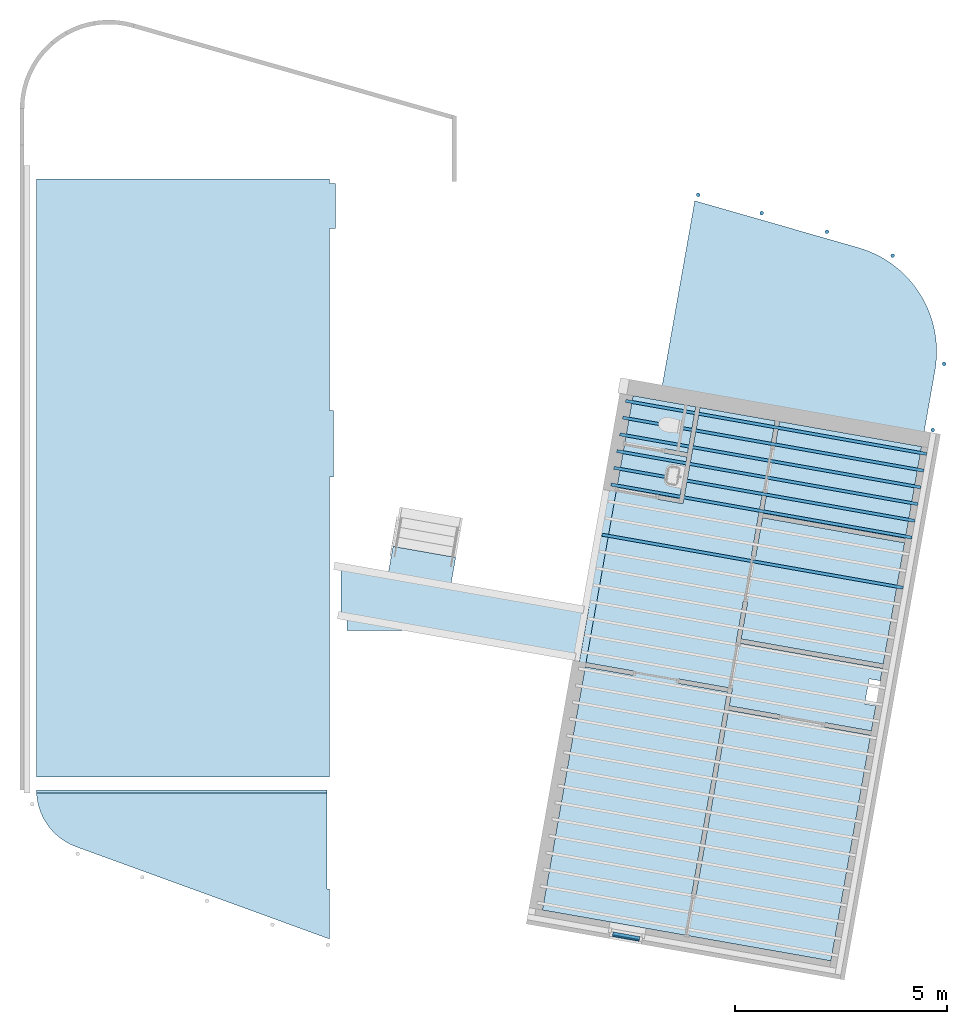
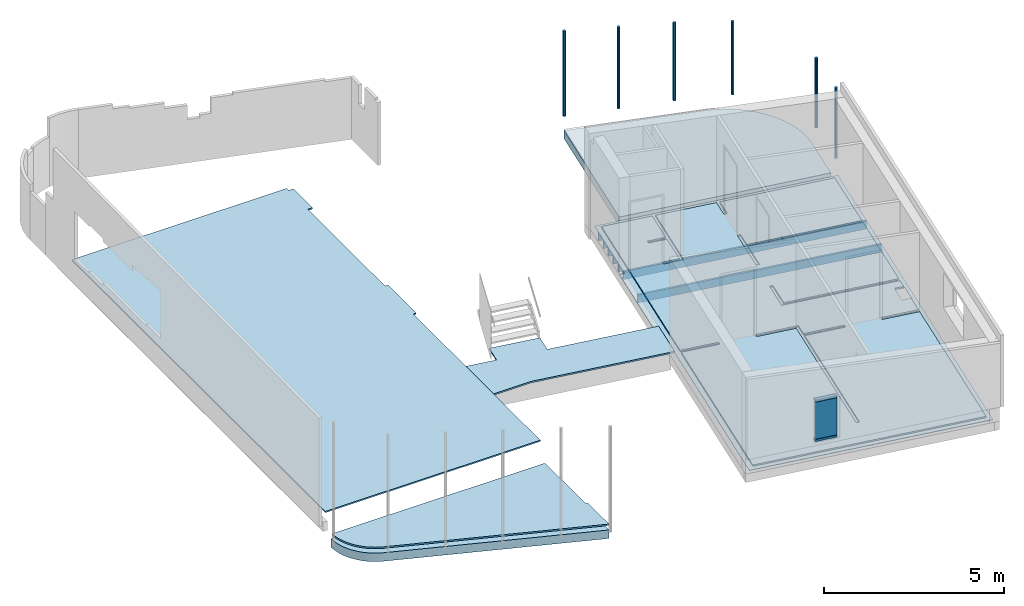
# One storey, part 2 of 7: 8 members, 7 beams, 7 slabs, 1 plate, 3 openings, 5 elements without a shape of their own.
"""IFC2X3 building model written with IfcOpenShell, lengths in millimetres."""

from ifc_helpers import new_model, entity, si_unit, converted_unit, derived_unit, direction, frame, frame_2d, origin, origin_2d_with_axis, place, context, subcontext, project, spatial, polyline, circle_curve, parameter, trimmed, segment, composite_curve, rectangle, circle, outline, extrude, source, transform, mapped, material, layer, layer_set, layer_usage, type_object, type_shapes, element, aggregate, save


model = new_model("IFC2X3")

# Units and contexts
model_context = context("Model", 3, precision=0.01, world=origin(), true_north=direction((6.12303176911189e-17, 1.0)))
body_context = subcontext(model_context, "Body", "Model", "MODEL_VIEW")
ifc_project = project(units=[si_unit("LENGTHUNIT", "METRE", prefix="MILLI"), si_unit("AREAUNIT", "SQUARE_METRE"), si_unit("VOLUMEUNIT", "CUBIC_METRE"), converted_unit("PLANEANGLEUNIT", "DEGREE", entity("IfcRatioMeasure", 0.0174532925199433), si_unit("PLANEANGLEUNIT", "RADIAN"), dimensions=[0, 0, 0, 0, 0, 0, 0]), si_unit("MASSUNIT", "GRAM", prefix="KILO"), derived_unit("MASSDENSITYUNIT", [(si_unit("MASSUNIT", "GRAM", prefix="KILO"), 1), (si_unit("LENGTHUNIT", "METRE"), -3)]), si_unit("TIMEUNIT", "SECOND"), si_unit("FREQUENCYUNIT", "HERTZ"), si_unit("THERMODYNAMICTEMPERATUREUNIT", "DEGREE_CELSIUS"), derived_unit("THERMALTRANSMITTANCEUNIT", [(si_unit("MASSUNIT", "GRAM", prefix="KILO"), 1), (si_unit("THERMODYNAMICTEMPERATUREUNIT", "KELVIN"), -1), (si_unit("TIMEUNIT", "SECOND"), -3)]), derived_unit("VOLUMETRICFLOWRATEUNIT", [(si_unit("LENGTHUNIT", "METRE"), 3), (si_unit("TIMEUNIT", "SECOND"), -1)]), si_unit("ELECTRICCURRENTUNIT", "AMPERE"), si_unit("ELECTRICVOLTAGEUNIT", "VOLT"), si_unit("POWERUNIT", "WATT"), si_unit("FORCEUNIT", "NEWTON", prefix="KILO"), si_unit("ILLUMINANCEUNIT", "LUX"), si_unit("LUMINOUSFLUXUNIT", "LUMEN"), si_unit("LUMINOUSINTENSITYUNIT", "CANDELA"), derived_unit("USERDEFINED", [(si_unit("MASSUNIT", "GRAM", prefix="KILO"), -1), (si_unit("LENGTHUNIT", "METRE"), -2), (si_unit("TIMEUNIT", "SECOND"), 3), (si_unit("LUMINOUSFLUXUNIT", "LUMEN"), 1)]), derived_unit("LINEARVELOCITYUNIT", [(si_unit("LENGTHUNIT", "METRE"), 1), (si_unit("TIMEUNIT", "SECOND"), -1)]), si_unit("PRESSUREUNIT", "PASCAL"), derived_unit("USERDEFINED", [(si_unit("LENGTHUNIT", "METRE"), -2), (si_unit("MASSUNIT", "GRAM", prefix="KILO"), 1), (si_unit("TIMEUNIT", "SECOND"), -2)])], contexts=[model_context])

# Site, building, storey
site_placement = place(None, origin())
site = spatial("IfcSite", under=ifc_project, at=site_placement, Name="<Kadaster Gemeente>;<Kadaster nummer>;<Kadaster sectie>", CompositionType="ELEMENT")
building_placement = place(site_placement, origin())
building = spatial("IfcBuilding", under=site, at=building_placement, Name="JRCZ Middelburg", CompositionType="ELEMENT")
storey_placement = place(building_placement, frame((0.0, 0.0, 3000.0)))
storey = spatial("IfcBuildingStorey", under=building, at=storey_placement, Name="01 eerste verdieping", CompositionType="ELEMENT", Elevation=3000.0)

# Curtain wall, members
curtain_wall_type_1 = type_object("IfcCurtainWallType", Name="Curtain Wall:NLRS_31_CW_Ontwerpkozijn 067x114 2", PredefinedType="NOTDEFINED")
curtain_wall_1_placement = place(storey_placement, frame((0.0, 0.0, -3000.0)))
curtain_wall_1 = element("IfcCurtainWall", 1, at=curtain_wall_1_placement, inside=storey, type_object=curtain_wall_type_1, Name="Curtain Wall:NLRS_31_CW_Ontwerpkozijn 067x114 2", ObjectType="Curtain Wall:NLRS_31_CW_Ontwerpkozijn 067x114 2")
ifc_material_1 = material(Name="RBM_a_kozijn")
member_type_1 = type_object("IfcMemberType", Name="31_CWM_067x114", PredefinedType="MEMBER")
shared_shape_1 = source(origin(), body_context, "Body", "SweptSolid", [
    extrude(rectangle(XDim=113.999999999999, YDim=67.0, at=origin_2d_with_axis()), frame((-33.5, 57.0, -641.0), z_axis=(0.0, 0.0, 1.0), x_axis=(0.0, -1.0, 0.0)), (0.0, 0.0, 1.0), 640.999999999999),
])
type_shapes(member_type_1, [shared_shape_1])
member_1_placement = place(storey_placement, frame((24361.6617875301, 6394.65119391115, 2000.0), z_axis=(0.984807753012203, -0.173648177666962, 0.0), x_axis=(0.0, 0.0, 1.0)))
member_1 = element("IfcMember", 2, at=member_1_placement, type_object=member_type_1, material=ifc_material_1, Name="Rectangular Mullion:31_CWM_067x114", ObjectType="Rectangular Mullion:31_CWM_067x114", context=body_context, shape_type="MappedRepresentation", body=[
    mapped(shared_shape_1, transform((0.0, 0.0, 0.0), scale=1.0)),
])
member_type_2 = type_object("IfcMemberType", Name="31_CWM_067x114", PredefinedType="MEMBER")
shared_shape_2 = source(origin(), body_context, "Body", "SweptSolid", [
    extrude(rectangle(XDim=113.999999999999, YDim=67.0, at=origin_2d_with_axis()), frame((-33.5, 57.0, -641.0), z_axis=(0.0, 0.0, 1.0), x_axis=(0.0, -1.0, 0.0)), (0.0, 0.0, 1.0), 640.999999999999),
])
type_shapes(member_type_2, [shared_shape_2])
member_2_placement = place(storey_placement, frame((23730.4000178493, 6505.95967579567, 600.0), z_axis=(-0.984807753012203, 0.173648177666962, 0.0), x_axis=(0.0, 0.0, -1.0)))
member_2 = element("IfcMember", 3, at=member_2_placement, type_object=member_type_2, material=ifc_material_1, Name="Rectangular Mullion:31_CWM_067x114", ObjectType="Rectangular Mullion:31_CWM_067x114", context=body_context, shape_type="MappedRepresentation", body=[
    mapped(shared_shape_2, transform((0.0, 0.0, 0.0), scale=1.0)),
])

curtain_wall_type_2 = type_object("IfcCurtainWallType", PredefinedType="NOTDEFINED")
curtain_wall_2_placement = place(storey_placement, frame((0.0, 0.0, -3000.0)))
curtain_wall_2 = element("IfcCurtainWall", 4, at=curtain_wall_2_placement, inside=storey, type_object=curtain_wall_type_2)
ifc_material_2 = material(Name="Staal")
member_type_3 = type_object("IfcMemberType", Name="kolom rond 90", PredefinedType="MEMBER")
shared_shape_3 = source(origin(), body_context, "Body", "SweptSolid", [
    extrude(circle(Radius=45.0, at=frame_2d((-6.74610794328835e-25, 3.8981061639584e-12), x_axis=(1.0, 0.0))), frame((0.0, 0.0, -2363.75657837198), z_axis=(0.0, 0.0, 1.0), x_axis=(-1.0, 0.0, 0.0)), (0.0, 0.0, 1.0), 2363.75657837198),
])
type_shapes(member_type_3, [shared_shape_3])
member_3_placement = place(storey_placement, frame((31526.52699392, 19884.8781417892, 350.0), z_axis=(0.0, 0.0, -1.0), x_axis=(0.105661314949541, 0.994402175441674, 0.0)))
member_3 = element("IfcMember", 5, at=member_3_placement, type_object=member_type_3, material=ifc_material_2, Name="Rectangular Mullion:kolom rond 90", ObjectType="Rectangular Mullion:kolom rond 90", context=body_context, shape_type="MappedRepresentation", body=[
    mapped(shared_shape_3, transform((0.0, 0.0, 0.0), scale=1.0)),
])
member_type_4 = type_object("IfcMemberType", Name="kolom rond 90", PredefinedType="MEMBER")
shared_shape_4 = source(origin(), body_context, "Body", "SweptSolid", [
    extrude(circle(Radius=45.0, at=frame_2d((-4.22994972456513e-15, 4.08948640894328e-12), x_axis=(1.0, 0.0))), frame((0.0, 0.0, -2485.94681680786), z_axis=(0.0, 0.0, 1.0), x_axis=(-1.0, 0.0, 0.0)), (0.0, 0.0, 1.0), 2485.94681680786),
])
type_shapes(member_type_4, [shared_shape_4])
member_4_placement = place(storey_placement, frame((30313.881997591, 22433.4592537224, 350.0), z_axis=(0.0, 0.0, -1.0), x_axis=(-0.838257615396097, 0.54527439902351, 0.0)))
member_4 = element("IfcMember", 6, at=member_4_placement, type_object=member_type_4, material=ifc_material_2, Name="Rectangular Mullion:kolom rond 90", ObjectType="Rectangular Mullion:kolom rond 90", context=body_context, shape_type="MappedRepresentation", body=[
    mapped(shared_shape_4, transform((0.0, 0.0, 0.0), scale=1.0)),
])
aggregate(curtain_wall_2, [member_3, member_4])

# Curtain wall, member
curtain_wall_type_3 = type_object("IfcCurtainWallType", PredefinedType="NOTDEFINED")
curtain_wall_3_placement = place(storey_placement, frame((0.0, 0.0, -3000.0)))
curtain_wall_3 = element("IfcCurtainWall", 7, at=curtain_wall_3_placement, inside=storey, type_object=curtain_wall_type_3)
member_type_5 = type_object("IfcMemberType", Name="kolom rond 90", PredefinedType="MEMBER")
shared_shape_5 = source(origin(), body_context, "Body", "SweptSolid", [
    extrude(circle(Radius=45.0, at=frame_2d((-6.92023404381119e-25, 3.94806620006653e-12), x_axis=(1.0, 0.0))), frame((0.0, 0.0, -2394.49917092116), z_axis=(0.0, 0.0, 1.0), x_axis=(-1.0, 0.0, 0.0)), (0.0, 0.0, 1.0), 2394.49917092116),
])
type_shapes(member_type_5, [shared_shape_5])
member_5_placement = place(storey_placement, frame((31258.6889066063, 18329.2425557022, 350.0), z_axis=(0.0, 0.0, -1.0), x_axis=(0.17364817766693, 0.984807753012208, 0.0)))
member_5 = element("IfcMember", 8, at=member_5_placement, type_object=member_type_5, material=ifc_material_2, Name="Rectangular Mullion:kolom rond 90", ObjectType="Rectangular Mullion:kolom rond 90", context=body_context, shape_type="MappedRepresentation", body=[
    mapped(shared_shape_5, transform((0.0, 0.0, 0.0), scale=1.0)),
])
aggregate(curtain_wall_3, [member_5])

# Curtain wall, members
curtain_wall_4_placement = place(storey_placement, frame((0.0, 0.0, -3000.0)))
curtain_wall_4 = element("IfcCurtainWall", 9, at=curtain_wall_4_placement, inside=storey, type_object=curtain_wall_type_3)
member_type_6 = type_object("IfcMemberType", Name="kolom rond 90", PredefinedType="MEMBER")
shared_shape_6 = source(origin(), body_context, "Body", "SweptSolid", [
    extrude(circle(Radius=45.0, at=frame_2d((-4.22994972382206e-15, 6.84695561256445e-14), x_axis=(1.0, 0.0))), frame((0.0, 0.0, -2643.99870537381), z_axis=(0.0, 0.0, 1.0), x_axis=(-1.0, 0.0, 0.0)), (0.0, 0.0, 1.0), 2643.99870537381),
])
type_shapes(member_type_6, [shared_shape_6])
member_6_placement = place(storey_placement, frame((28767.9824083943, 22995.2744649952, 350.097155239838), z_axis=(0.0, 0.0, -1.0), x_axis=(-0.961261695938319, 0.275637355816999, 0.0)))
member_6 = element("IfcMember", 10, at=member_6_placement, type_object=member_type_6, material=ifc_material_2, Name="Rectangular Mullion:kolom rond 90", ObjectType="Rectangular Mullion:kolom rond 90", context=body_context, shape_type="MappedRepresentation", body=[
    mapped(shared_shape_6, transform((0.0, 0.0, 0.0), scale=1.0)),
])
member_type_7 = type_object("IfcMemberType", Name="kolom rond 90", PredefinedType="MEMBER")
shared_shape_7 = source(origin(), body_context, "Body", "SweptSolid", [
    extrude(circle(Radius=45.0, at=frame_2d((-2.14795178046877e-28, 6.84695561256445e-14), x_axis=(1.0, 0.0))), frame((-45.0, 0.0, -2892.42459486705), z_axis=(0.0, 0.0, 1.0), x_axis=(-1.0, 0.0, 0.0)), (0.0, 0.0, 1.0), 2892.42459486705),
])
type_shapes(member_type_7, [shared_shape_7])
member_7_placement = place(storey_placement, frame((25691.5241580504, 23877.4346727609, 350.097155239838), z_axis=(0.0, 0.0, -1.0), x_axis=(-0.961261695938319, 0.275637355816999, 0.0)))
member_7 = element("IfcMember", 11, at=member_7_placement, type_object=member_type_7, material=ifc_material_2, Name="Rectangular Mullion:kolom rond 90", ObjectType="Rectangular Mullion:kolom rond 90", context=body_context, shape_type="MappedRepresentation", body=[
    mapped(shared_shape_7, transform((0.0, 0.0, 0.0), scale=1.0)),
])
member_type_8 = type_object("IfcMemberType", Name="kolom rond 90", PredefinedType="MEMBER")
shared_shape_8 = source(origin(), body_context, "Body", "SweptSolid", [
    extrude(circle(Radius=45.0, at=frame_2d((-4.22994972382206e-15, 6.84695561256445e-14), x_axis=(1.0, 0.0))), frame((0.0, 0.0, -2768.24317329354), z_axis=(0.0, 0.0, 1.0), x_axis=(-1.0, 0.0, 0.0)), (0.0, 0.0, 1.0), 2768.24317329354),
])
type_shapes(member_type_8, [shared_shape_8])
member_8_placement = place(storey_placement, frame((27229.362906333, 23436.4665076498, 350.097155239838), z_axis=(0.0, 0.0, -1.0), x_axis=(-0.961261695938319, 0.275637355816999, 0.0)))
member_8 = element("IfcMember", 12, at=member_8_placement, type_object=member_type_8, material=ifc_material_2, Name="Rectangular Mullion:kolom rond 90", ObjectType="Rectangular Mullion:kolom rond 90", context=body_context, shape_type="MappedRepresentation", body=[
    mapped(shared_shape_8, transform((0.0, 0.0, 0.0), scale=1.0)),
])
aggregate(curtain_wall_4, [member_6, member_7, member_8])

# Assembly, beams
assembly_placement = place(storey_placement, origin())
assembly = element("IfcElementAssembly", 13, at=assembly_placement, inside=storey, Name="Structural Beam System:houten balkalaag 71 X 271 hoh400", ObjectType="Structural Beam System:houten balkalaag 71 X 271 hoh400", AssemblyPlace="NOTDEFINED", PredefinedType="BEAM_GRID")
ifc_material_3 = material(Name="Softwood, Lumber")
beam_type = type_object("IfcBeamType", Name="71 x 271", PredefinedType="BEAM")
beam_1_placement = place(assembly_placement, frame((24027.3081556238, 19013.4185227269, 0.0), z_axis=(0.0, 0.0, 1.0), x_axis=(0.984807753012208, -0.173648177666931, 0.0)))
beam_1 = element("IfcBeam", 14, at=beam_1_placement, type_object=beam_type, material=ifc_material_3, Name="M_Dimension Lumber:71 x 271", ObjectType="M_Dimension Lumber:71 x 271", context=body_context, shape_type="SweptSolid", body=[
    extrude(rectangle(XDim=271.0, YDim=71.0000000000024, at=frame_2d((0.0, 2.1316282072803e-12), x_axis=(1.0, 0.0))), frame((0.0, 0.0, -199.500000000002), z_axis=(1.0, 0.0, 0.0), x_axis=(0.0, 0.0, -1.0)), (0.0, 0.0, 1.0), 7199.99999999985),
])
beam_2_placement = place(assembly_placement, frame((23957.848884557, 18619.495421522, 0.0), z_axis=(0.0, 0.0, 1.0), x_axis=(0.984807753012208, -0.173648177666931, 0.0)))
beam_2 = element("IfcBeam", 15, at=beam_2_placement, type_object=beam_type, material=ifc_material_3, Name="M_Dimension Lumber:71 x 271", ObjectType="M_Dimension Lumber:71 x 271", context=body_context, shape_type="SweptSolid", body=[
    extrude(rectangle(XDim=271.0, YDim=71.0000000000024, at=origin_2d_with_axis()), frame((0.0, 0.0, -199.500000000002), z_axis=(1.0, 0.0, 0.0), x_axis=(0.0, 0.0, -1.0)), (0.0, 0.0, 1.0), 7199.99999999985),
])
beam_3_placement = place(assembly_placement, frame((23888.3896134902, 18225.5723203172, 0.0), z_axis=(0.0, 0.0, 1.0), x_axis=(0.984807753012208, -0.173648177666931, 0.0)))
beam_3 = element("IfcBeam", 16, at=beam_3_placement, type_object=beam_type, material=ifc_material_3, Name="M_Dimension Lumber:71 x 271", ObjectType="M_Dimension Lumber:71 x 271", context=body_context, shape_type="SweptSolid", body=[
    extrude(rectangle(XDim=271.0, YDim=71.0000000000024, at=origin_2d_with_axis()), frame((0.0, 0.0, -199.500000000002), z_axis=(1.0, 0.0, 0.0), x_axis=(0.0, 0.0, -1.0)), (0.0, 0.0, 1.0), 7199.99999999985),
])
beam_4_placement = place(assembly_placement, frame((23818.9303424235, 17831.6492191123, 0.0), z_axis=(0.0, 0.0, 1.0), x_axis=(0.984807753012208, -0.173648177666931, 0.0)))
beam_4 = element("IfcBeam", 17, at=beam_4_placement, type_object=beam_type, material=ifc_material_3, Name="M_Dimension Lumber:71 x 271", ObjectType="M_Dimension Lumber:71 x 271", context=body_context, shape_type="SweptSolid", body=[
    extrude(rectangle(XDim=271.0, YDim=71.0000000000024, at=frame_2d((0.0, -2.1351809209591e-12), x_axis=(1.0, 0.0))), frame((0.0, 0.0, -199.500000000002), z_axis=(1.0, 0.0, 0.0), x_axis=(0.0, 0.0, -1.0)), (0.0, 0.0, 1.0), 7199.99999999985),
])
beam_5_placement = place(assembly_placement, frame((23749.4710713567, 17437.7261179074, 0.0), z_axis=(0.0, 0.0, 1.0), x_axis=(0.984807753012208, -0.173648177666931, 0.0)))
beam_5 = element("IfcBeam", 18, at=beam_5_placement, type_object=beam_type, material=ifc_material_3, Name="M_Dimension Lumber:71 x 271", ObjectType="M_Dimension Lumber:71 x 271", context=body_context, shape_type="SweptSolid", body=[
    extrude(rectangle(XDim=271.0, YDim=71.0000000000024, at=frame_2d((0.0, 2.1316282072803e-12), x_axis=(1.0, 0.0))), frame((0.0, 0.0, -199.500000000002), z_axis=(1.0, 0.0, 0.0), x_axis=(0.0, 0.0, -1.0)), (0.0, 0.0, 1.0), 7199.99999999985),
])
beam_6_placement = place(assembly_placement, frame((23680.0118002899, 17043.8030167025, 0.0), z_axis=(0.0, 0.0, 1.0), x_axis=(0.984807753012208, -0.173648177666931, 0.0)))
beam_6 = element("IfcBeam", 19, at=beam_6_placement, type_object=beam_type, material=ifc_material_3, Name="M_Dimension Lumber:71 x 271", ObjectType="M_Dimension Lumber:71 x 271", context=body_context, shape_type="SweptSolid", body=[
    extrude(rectangle(XDim=271.0, YDim=71.0000000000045, at=frame_2d((0.0, -2.1351809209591e-12), x_axis=(1.0, 0.0))), frame((0.0, 0.0, -199.500000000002), z_axis=(1.0, 0.0, 0.0), x_axis=(0.0, 0.0, -1.0)), (0.0, 0.0, 1.0), 7199.99999999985),
])
beam_7_placement = place(assembly_placement, frame((23471.6339870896, 15862.0337130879, 0.0), z_axis=(0.0, 0.0, 1.0), x_axis=(0.984807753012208, -0.173648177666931, 0.0)))
beam_7 = element("IfcBeam", 20, at=beam_7_placement, type_object=beam_type, material=ifc_material_3, Name="M_Dimension Lumber:71 x 271", ObjectType="M_Dimension Lumber:71 x 271", context=body_context, shape_type="SweptSolid", body=[
    extrude(rectangle(XDim=271.0, YDim=71.0000000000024, at=frame_2d((0.0, -1.06581410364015e-12), x_axis=(1.0, 0.0))), frame((0.0, 0.0, -199.500000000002), z_axis=(1.0, 0.0, 0.0), x_axis=(0.0, 0.0, -1.0)), (0.0, 0.0, 1.0), 7199.99999999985),
])
aggregate(assembly, [beam_1, beam_2, beam_3, beam_4, beam_5, beam_6, beam_7])

# Slab
ifc_material_4 = material(Name="traphout")
ifc_layer_1 = layer(ifc_material_4, 50.0)
ifc_layer_set_1 = layer_set([ifc_layer_1], Name="Floor:RBM_23_FL_houten vloer-brug")
ifc_layer_usage_1 = layer_usage(ifc_layer_set_1, "AXIS3", "POSITIVE", 0.0)
slab_type_1 = type_object("IfcSlabType", Name="Floor:RBM_23_FL_houten vloer-brug", PredefinedType="FLOOR", material=ifc_layer_set_1)
slab_1_placement = place(storey_placement, origin())
element("IfcSlab", 21, at=slab_1_placement, inside=storey, type_object=slab_type_1, material=ifc_layer_usage_1, Name="Floor:RBM_23_FL_houten vloer-brug", ObjectType="Floor:RBM_23_FL_houten vloer-brug", PredefinedType="FLOOR", context=body_context, shape_type="SweptSolid", body=[
    extrude(outline(polyline([(-479.530203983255, -1897.68355352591), (848.307594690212, -1897.68355352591), (650.028454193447, -772.754836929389), (1240.38236911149, -668.699473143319), (980.017280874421, 808.471367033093), (389.408743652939, 704.371123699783), (-182.148605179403, 3947.0787190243), (-1470.078041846, 3719.98201009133), (-735.204326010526, -447.693934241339), (-735.204326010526, -1747.69393424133), (-505.978939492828, -1747.69393424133), (-479.530203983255, -1897.68355352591)])), frame((19215.6939342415, 14345.8112779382, 0.0), z_axis=(0.0, 0.0, -1.0), x_axis=(0.0, 1.0, 0.0)), (0.0, 0.0, 1.0), 50.0),
])

# Slab, opening
ifc_material_5 = material(Name="ISR_Multiplex")
ifc_layer_2 = layer(ifc_material_5, 19.0)
ifc_layer_set_2 = layer_set([ifc_layer_2], Name="Floor:RBM_23_FL_underlayment 19 mm")
ifc_layer_usage_2 = layer_usage(ifc_layer_set_2, "AXIS3", "POSITIVE", 0.0)
slab_type_2 = type_object("IfcSlabType", Name="Floor:RBM_23_FL_underlayment 19 mm", PredefinedType="FLOOR", material=ifc_layer_set_2)
slab_2_placement = place(storey_placement, frame((21882.3260986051, 5650.01628147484, -64.0)))
slab_2 = element("IfcSlab", 22, at=slab_2_placement, inside=storey, type_object=slab_type_2, material=ifc_layer_usage_2, Name="Floor:RBM_23_FL_underlayment 19 mm", ObjectType="Floor:RBM_23_FL_underlayment 19 mm", PredefinedType="FLOOR", context=body_context, shape_type="SweptSolid", body=[
    extrude(outline(polyline([(-4716.10643488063, 5565.61084651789), (-2528.13939627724, -6842.96684143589), (4571.58589712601, -5591.09371659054), (3291.13932761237, 1670.67963408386), (3435.65986536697, 1696.1625041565), (2953.57743156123, 4430.187846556), (2799.94742209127, 4403.09873083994), (2374.50938680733, 6815.87772571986), (-4716.10643488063, 5565.61084651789)])), frame((4571.58589712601, 6842.96684143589, 19.0), z_axis=(0.0, 0.0, -1.0), x_axis=(-1.0, 0.0, 0.0)), (0.0, 0.0, 1.0), 19.0),
])
opening_1_placement = place(storey_placement, frame((21882.3260986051, 5650.01628147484, -64.0)))
element("IfcOpeningElement", 23, at=opening_1_placement, cuts=slab_2, ObjectType="Opening", context=body_context, shape_type="SweptSolid", body=[
    extrude(rectangle(XDim=600.0, YDim=299.999999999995, at=frame_2d((-3401.60648218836, -345.938347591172), x_axis=(0.173648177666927, -0.984807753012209))), frame((4571.58589712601, 6842.96684143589, 19.0), z_axis=(0.0, 0.0, -1.0), x_axis=(-1.0, 0.0, 0.0)), (0.0, 0.0, 1.0), 19.0),
])

# Slab
ifc_layer_3 = layer(ifc_material_5, 18.0)
ifc_material_6 = material(Name="RBM_i2_hout_vuren_gen")
ifc_layer_4 = layer(ifc_material_6, 271.0)
ifc_layer_set_3 = layer_set([ifc_layer_3, ifc_layer_4], Name="Floor:RBM_23_FL_balklaag dak_71x271, h.o.h. 400")
ifc_layer_usage_3 = layer_usage(ifc_layer_set_3, "AXIS3", "POSITIVE", 0.0)
slab_type_3 = type_object("IfcSlabType", Name="Floor:RBM_23_FL_balklaag dak_71x271, h.o.h. 400", PredefinedType="FLOOR", material=ifc_layer_set_3)
slab_3_placement = place(storey_placement, origin())
element("IfcSlab", 24, at=slab_3_placement, inside=storey, type_object=slab_type_3, material=ifc_layer_usage_3, Name="Floor:RBM_23_FL_balklaag dak_71x271, h.o.h. 400", ObjectType="Floor:RBM_23_FL_balklaag dak_71x271, h.o.h. 400", PredefinedType="FLOOR", context=body_context, shape_type="SweptSolid", body=[
    extrude(outline(composite_curve([segment(polyline([(-3542.44104935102, -2102.1862902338), (465.190872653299, -2102.1862902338)]), True, "CONTINUOUS"), segment(trimmed(circle_curve(frame_2d((465.190872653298, 443.651935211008), x_axis=(0.0, -1.0)), 2545.8382254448), [parameter(0.0)], [parameter(84.0)], True, "PARAMETER"), True, "CONTINUOUS"), segment(polyline([(2997.08272992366, 177.539377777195), (3155.6241373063, 1685.9601087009)]), True, "CONTINUOUS"), segment(polyline([(3155.6241373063, 1685.9601087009), (-3075.45669053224, 2340.87309398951)]), True, "CONTINUOUS"), segment(polyline([(-3075.45669053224, 2340.87309398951), (-3542.44104935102, -2102.1862902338)]), True, "CONTINUOUS")], self_intersect=False)), frame((28480.270626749, 20728.8070958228, -35.0), z_axis=(0.0, 0.0, -1.0), x_axis=(0.961261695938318, -0.275637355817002, 0.0)), (0.0, 0.0, 1.0), 289.0),
])

# Plate
ifc_material_7 = material(Name="<Unnamed>")
ifc_layer_5 = layer(ifc_material_7, 24.0)
ifc_layer_set_4 = layer_set([ifc_layer_5], Name="System Panel:31_CWP_glas_2")
ifc_layer_usage_4 = layer_usage(ifc_layer_set_4, "AXIS3", "POSITIVE", 0.278871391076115)
plate_type = type_object("IfcPlateType", Name="31_CWP_glas_2", PredefinedType="CURTAIN_PANEL", material=ifc_layer_set_4)
shared_shape_9 = source(origin(), body_context, "Body", "SweptSolid", [
    extrude(rectangle(XDim=24.0, YDim=640.999999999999, at=frame_2d((-7.99360577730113e-15, 0.0), x_axis=(1.0, 0.0))), frame((0.0, -85.0, 0.0), z_axis=(0.0, 0.0, 1.0), x_axis=(0.0, 1.0, 0.0)), (0.0, 0.0, 1.0), 1266.0),
])
type_shapes(plate_type, [shared_shape_9])
plate_placement = place(curtain_wall_1_placement, frame((24046.0309026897, 6450.30543485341, 3667.0), z_axis=(0.0, 0.0, 1.0), x_axis=(0.984807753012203, -0.173648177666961, 0.0)))
plate = element("IfcPlate", 25, at=plate_placement, type_object=plate_type, material=ifc_layer_usage_4, Name="System Panel:31_CWP_glas_2", ObjectType="System Panel:31_CWP_glas_2", context=body_context, shape_type="MappedRepresentation", body=[
    mapped(shared_shape_9, transform((0.0, 0.0, 0.0), scale=1.0)),
])

aggregate(curtain_wall_1, [plate, member_1, member_2])

# Slab, openings
ifc_material_8 = material(Name="vloerafwerking pvc")
ifc_layer_6 = layer(ifc_material_8, 10.0)
ifc_material_9 = material(Name="Zwevende dekvloer Fermacell")
ifc_layer_7 = layer(ifc_material_9, 35.0)
ifc_layer_set_5 = layer_set([ifc_layer_6, ifc_layer_7], Name="Floor:RBM_23_FL_Fermacell_zwevende_dekvloer")
ifc_layer_usage_5 = layer_usage(ifc_layer_set_5, "AXIS3", "POSITIVE", 0.0)
slab_type_4 = type_object("IfcSlabType", Name="Floor:RBM_23_FL_Fermacell_zwevende_dekvloer", PredefinedType="FLOOR", material=ifc_layer_set_5)
slab_4_placement = place(storey_placement, frame((22065.2039599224, 5823.78467107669, -45.0)))
slab_4 = element("IfcSlab", 26, at=slab_4_placement, inside=storey, type_object=slab_type_4, material=ifc_layer_usage_5, Name="Floor:RBM_23_FL_Fermacell_zwevende_dekvloer", ObjectType="Floor:RBM_23_FL_Fermacell_zwevende_dekvloer", PredefinedType="FLOOR", context=body_context, shape_type="SweptSolid", body=[
    extrude(outline(polyline([(-3562.5525166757, 336.481152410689), (-214.206156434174, 926.884956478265), (-368.058441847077, 1799.42462564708), (-269.577666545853, 1816.78944341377), (-98.3605633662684, 845.768998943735), (-3545.18769890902, 238.000377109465), (-3284.71543240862, -1239.21125240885), (-2193.54844207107, -1046.80907155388), (-2176.18362430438, -1145.2898468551), (-3267.35061464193, -1337.69202771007), (-2329.65045524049, -6655.65389397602), (4465.52304054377, -5457.48146807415), (3455.58523923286, 270.160423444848), (2330.93478529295, 71.8542045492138), (2313.56996752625, 170.334979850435), (3438.22042146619, 368.64119874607), (2729.04126387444, 4390.59606204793), (2329.65045524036, 6655.65389397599), (852.438825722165, 6395.18162747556), (1043.45182115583, 5311.89309916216), (1240.41337175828, 5346.62273469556), (1309.34991446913, 5358.77810713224), (1583.12646980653, 5407.05230052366), (1600.49128757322, 5308.57152522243), (1060.81663892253, 5213.41232386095), (1234.46481658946, 4228.60457084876), (1724.89907758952, 4315.08136332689), (1742.26389535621, 4216.60058802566), (1153.34885905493, 4112.75897778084), (753.958050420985, 6377.81680970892), (-1018.69590500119, 6065.2500899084), (-913.117812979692, 5466.48697607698), (-1011.59858828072, 5449.12215831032), (-1117.1766803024, 6047.88527214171), (-4465.52304054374, 5457.48146807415), (-4083.49704967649, 3290.90441144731), (-735.150689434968, 3881.30821551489), (-823.363963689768, 4381.59055404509), (-724.883188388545, 4398.95537181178), (-457.812291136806, 2884.32104767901), (-556.293066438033, 2866.95622991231), (-717.785871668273, 3782.82744021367), (-4066.1322319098, 3192.4236361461), (-3562.5525166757, 336.481152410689)])), frame((4465.52304054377, 6655.65389397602, 45.0), z_axis=(0.0, 0.0, -1.0), x_axis=(-1.0, 0.0, 0.0)), (0.0, 0.0, 1.0), 45.0000000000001),
])
opening_2_placement = place(storey_placement, frame((22065.2039599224, 5823.78467107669, -45.0)))
element("IfcOpeningElement", 27, at=opening_2_placement, cuts=slab_4, ObjectType="Opening", context=body_context, shape_type="SweptSolid", body=[
    extrude(rectangle(XDim=600.0, YDim=299.999999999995, at=frame_2d((-3324.79147745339, -332.393789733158), x_axis=(0.173648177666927, -0.984807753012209))), frame((4465.52304054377, 6655.65389397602, 45.0), z_axis=(0.0, 0.0, -1.0), x_axis=(-1.0, 0.0, 0.0)), (0.0, 0.0, 1.0), 45.0000000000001),
])
opening_3_placement = place(slab_4_placement, frame((4233.12578329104, 5240.91620987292, 45.0)))
element("IfcOpeningElement", 28, at=opening_3_placement, cuts=slab_4, Name="Floor:RBM_23_FL_Fermacell_zwevende_dekvloer:2", ObjectType="Opening", context=body_context, shape_type="SweptSolid", body=[
    extrude(outline(polyline([(-1241.2, -683.599999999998), (-1241.2, -783.599999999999), (-33.1999999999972, -783.599999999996), (-33.2000000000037, -1199.6), (1240.80000000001, -1199.6), (1240.8, -1099.6), (66.7999999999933, -1099.60000000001), (66.7999999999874, 3766.40000000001), (-33.2000000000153, 3766.40000000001), (-33.1999999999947, -683.599999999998), (-1241.2, -683.599999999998)])), frame((0.0, 0.0, 0.0), z_axis=(0.0, 0.0, 1.0), x_axis=(-0.984807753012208, 0.173648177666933, 0.0)), (0.0, 0.0, -1.0), 45.0000000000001),
])

# Slabs
ifc_layer_usage_6 = layer_usage(ifc_layer_set_5, "AXIS3", "POSITIVE", 0.0)
slab_type_5 = type_object("IfcSlabType", Name="Floor:RBM_23_FL_Fermacell_zwevende_dekvloer", PredefinedType="FLOOR", material=ifc_layer_set_5)
slab_5_placement = place(storey_placement, origin())
element("IfcSlab", 29, at=slab_5_placement, inside=storey, type_object=slab_type_5, material=ifc_layer_usage_6, Name="Floor:RBM_23_FL_Fermacell_zwevende_dekvloer", ObjectType="Floor:RBM_23_FL_Fermacell_zwevende_dekvloer", PredefinedType="FLOOR", context=body_context, shape_type="SweptSolid", body=[
    extrude(outline(polyline([(-9450.52979471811, -5790.49999999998), (4643.47020528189, -5790.49999999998), (4643.47020528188, 1109.50000000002), (4537.47020528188, 1109.50000000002), (4537.47020528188, 1256.49999999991), (3473.47020528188, 1256.49999999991), (3473.47020528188, 1109.50000000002), (-818.44041056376, 1109.50000000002), (-818.44041056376, 1205.50000000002), (-2385.44041056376, 1205.50000000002), (-2385.44041056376, 1109.50000000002), (-9450.52979471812, 1109.50000000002), (-9450.52979471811, -5790.49999999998)])), frame((15940.5000000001, 19600.5297947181, 700.0), z_axis=(0.0, 0.0, -1.0), x_axis=(0.0, 1.0, 0.0)), (0.0, 0.0, 1.0), 45.0000000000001),
])
ifc_layer_usage_7 = layer_usage(ifc_layer_set_3, "AXIS3", "POSITIVE", 0.0)
slab_type_6 = type_object("IfcSlabType", Name="Floor:RBM_23_FL_balklaag dak_71x271, h.o.h. 400", PredefinedType="FLOOR", material=ifc_layer_set_3)
slab_6_placement = place(storey_placement, origin())
element("IfcSlab", 30, at=slab_6_placement, inside=storey, type_object=slab_type_6, material=ifc_layer_usage_7, Name="Floor:RBM_23_FL_balklaag dak_71x271, h.o.h. 400", ObjectType="Floor:RBM_23_FL_balklaag dak_71x271, h.o.h. 400", PredefinedType="FLOOR", context=body_context, shape_type="SweptSolid", body=[
    extrude(outline(composite_curve([segment(polyline([(750.748460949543, -2168.02930348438), (1923.57574706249, -2168.02930348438)]), True, "CONTINUOUS"), segment(polyline([(1923.57574706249, -2168.02930348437), (-249.390773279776, 3802.14714438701)]), True, "CONTINUOUS"), segment(trimmed(circle_curve(frame_2d((-1585.89193704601, 3315.70050271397), x_axis=(0.939692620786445, 0.342020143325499)), 1422.27483136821), [parameter(0.0)], [parameter(69.8441072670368)], True, "PARAMETER"), True, "CONTINUOUS"), segment(polyline([(-1582.02215747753, 4737.97006955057), (-1582.02215747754, -2102.0293034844)]), True, "CONTINUOUS"), segment(polyline([(-1582.02215747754, -2102.0293034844), (739.110880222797, -2102.02930348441)]), True, "CONTINUOUS"), segment(polyline([(739.110880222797, -2102.02930348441), (750.748460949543, -2168.02930348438)]), True, "CONTINUOUS")], self_intersect=False)), frame((14887.9706965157, 8261.97784252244, -35.0), z_axis=(0.0, 0.0, -1.0), x_axis=(0.0, -1.0, 0.0)), (0.0, 0.0, 1.0), 289.0),
])
ifc_material_10 = material(Name="RBM_n7_dakisolatie_gen")
ifc_layer_8 = layer(ifc_material_10, 50.0)
ifc_layer_set_6 = layer_set([ifc_layer_8], Name="Floor:RBM_23_FL_dakisolatie 30 mm")
ifc_layer_usage_8 = layer_usage(ifc_layer_set_6, "AXIS3", "POSITIVE", 0.0)
slab_type_7 = type_object("IfcSlabType", Name="Floor:RBM_23_FL_dakisolatie 30 mm", PredefinedType="FLOOR", material=ifc_layer_set_6)
slab_7_placement = place(storey_placement, origin())
element("IfcSlab", 31, at=slab_7_placement, inside=storey, type_object=slab_type_7, material=ifc_layer_usage_8, Name="Floor:RBM_23_FL_dakisolatie 30 mm", ObjectType="Floor:RBM_23_FL_dakisolatie 30 mm", PredefinedType="FLOOR", context=body_context, shape_type="SweptSolid", body=[
    extrude(outline(composite_curve([segment(polyline([(730.748460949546, -2167.79104478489), (1903.57574706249, -2167.7910447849)]), True, "CONTINUOUS"), segment(polyline([(1903.57574706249, -2167.79104478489), (-269.390773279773, 3802.3854030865)]), True, "CONTINUOUS"), segment(trimmed(circle_curve(frame_2d((-1605.89193704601, 3315.93876141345), x_axis=(0.939692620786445, 0.342020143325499)), 1422.27483136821), [parameter(0.0)], [parameter(67.4261656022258)], True, "PARAMETER"), True, "CONTINUOUS"), segment(polyline([(-1542.02215747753, 4736.77877605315), (-1542.02215747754, -2101.79104478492)]), True, "CONTINUOUS"), segment(polyline([(-1542.02215747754, -2101.79104478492), (719.110880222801, -2101.79104478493)]), True, "CONTINUOUS"), segment(polyline([(719.110880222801, -2101.79104478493), (730.748460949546, -2167.79104478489)]), True, "CONTINUOUS")], self_intersect=False)), frame((14888.2089552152, 8241.97784252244, 165.0), z_axis=(0.0, 0.0, -1.0), x_axis=(0.0, -1.0, 0.0)), (0.0, 0.0, 1.0), 50.0),
])

save(model, "model.ifc")
